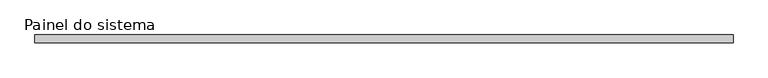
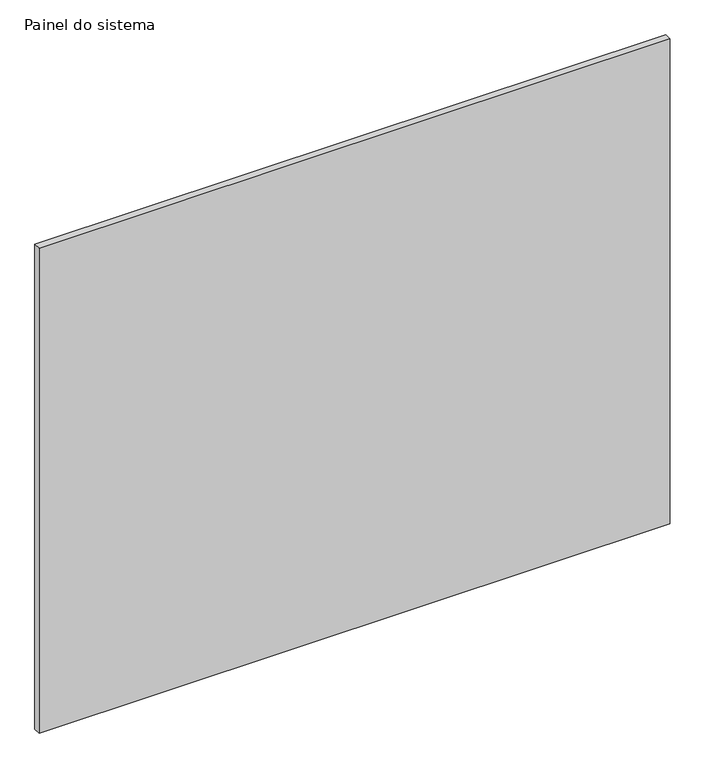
"""IFC4 building model written with IfcOpenShell, lengths in millimetres: plate geometry, Painel do sistema : ALAMBRADO."""

from ifc_helpers import new_model, si_unit, origin, origin_with_axes, place, context, project, spatial, polyline, outline, extrude, source, transform, mapped, element, save


def painel_do_sistema_98f25257(model_context):
    return source(origin(), model_context, "Body", "SweptSolid", [
        extrude(outline(polyline([(1108.3333334, 24.5), (-1108.3333334, 24.5), (-1108.3333334, 49.5), (1108.3333334, 49.5), (1108.3333334, 24.5)])), origin_with_axes(), (0.0, 0.0, 1.0), 1800.0),
    ])


if __name__ == "__main__":
    model = new_model("IFC4")
    model_context = context("Model", 3, world=origin())
    ifc_project = project(units=[si_unit("LENGTHUNIT", "METRE", prefix="MILLI")], contexts=[model_context])
    site = spatial("IfcSite", under=ifc_project)
    building = spatial("IfcBuilding", under=site)
    placement = place(None, origin())
    painel_do_sistema_shape = painel_do_sistema_98f25257(model_context)
    element("IfcPlate", 1, ObjectType="Painel do sistema : ALAMBRADO", at=placement, inside=building, context=model_context, shape_type="MappedRepresentation", body=[
        mapped(painel_do_sistema_shape, transform((0.0, 0.0, 0.0), x_axis=(1.0, 0.0, 0.0), y_axis=(0.0, 1.0, 0.0), z_axis=(0.0, 0.0, 1.0))),
    ])
    save(model, "model.ifc")
